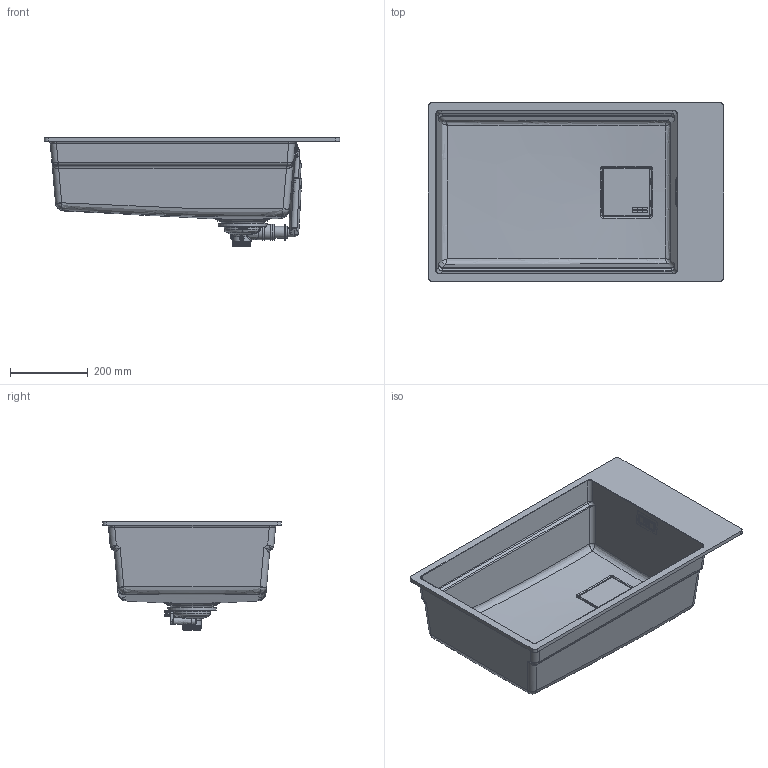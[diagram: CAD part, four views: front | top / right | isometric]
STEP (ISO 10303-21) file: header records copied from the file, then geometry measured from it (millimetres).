
FILE_DESCRIPTION(/* description */ (''),/* implementation_level */ '2;1');
FILE_NAME(/* name */ '3D001_Sinks_Kubus-2_KNG-110-62',/* time_stamp */ '2024-11-18T09:50:57+01:00',/* author */ (''),/* organization */ (''),/* preprocessor_version */ 'ST-DEVELOPER v19.2',/* originating_system */ 'Rhino 8.9',/* authorisation */ '');
FILE_SCHEMA (('CONFIG_CONTROL_DESIGN'));
Products named in the file (4): Document; Blocco 04; Blocco 02; LOGO_SOLOBORDO_COPRISCARICO
Bounding box: 760 x 460 x 280.16 mm (x, y, z)
Volume: 5463973.1 mm3; surface area: 1511672.7 mm2
Topology: 15 solids, 23 shells, 2626 faces, 7183 edges, 4673 vertices
Faces by surface type: plane 1674, cylinder 507, bspline 445
Full cylindrical faces by diameter (mm): 5 x3, 6 x1, 7.5 x3, 8 x1, 14 x2, 23.8 x1, 24 x1, 25 x2, 30 x3, 36 x1, 38 x2, 39 x1, 42 x3, 45 x1, 48 x1, 83.403 x1, 84 x1, 90 x1, 126 x1
Entity records: 108271 total; most frequent: CARTESIAN_POINT 52873, ORIENTED_EDGE 14133, EDGE_CURVE 7151, DIRECTION 5953, B_SPLINE_CURVE_WITH_KNOTS 4769, VERTEX_POINT 4673, AXIS2_PLACEMENT_3D 4067, EDGE_LOOP 2776
